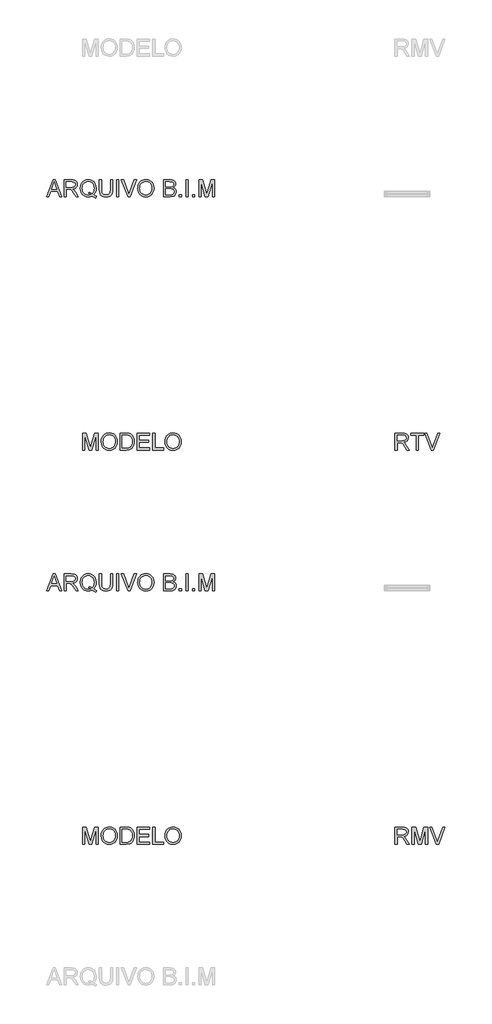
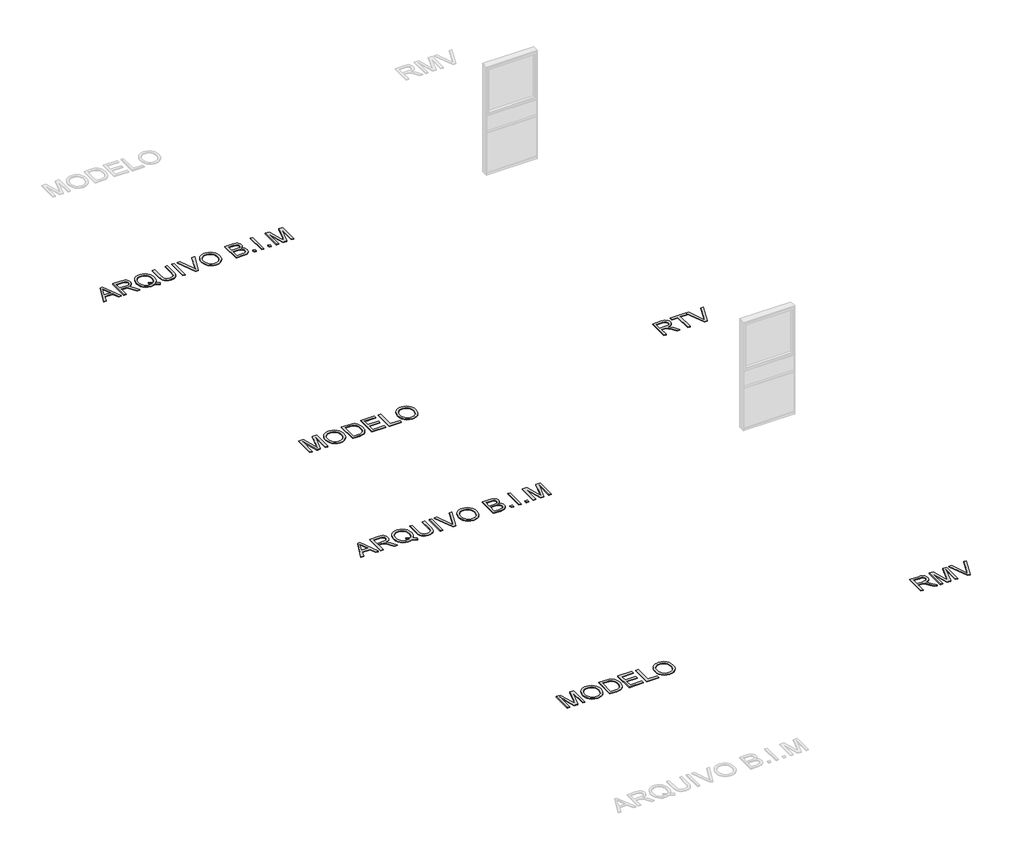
# One storey, part 6 of 15: 6 proxies.
"""IFC4 building model written with IfcOpenShell, lengths in millimetres."""

from ifc_helpers import new_model, si_unit, origin, origin_with_axes, place, context, project, spatial, polyline, outline, extrude, element, save

model = new_model("IFC4")

# Units and contexts
model_context = context("Model", 3, world=origin())
ifc_project = project(units=[si_unit("LENGTHUNIT", "METRE", prefix="MILLI")], contexts=[model_context])

# Site, building, storey
site = spatial("IfcSite", under=ifc_project)
building = spatial("IfcBuilding", under=site)
storey = spatial("IfcBuildingStorey", under=building, Name="Marelli - Linha REASONS - Planta Baixa", Elevation=0.0)

# Proxies
placement = place(None, origin())
element("IfcBuildingElementProxy", 1, Name="300mm Arial", ObjectType="300mm Arial", at=placement, inside=storey, context=model_context, shape_type="SweptSolid", body=[
    extrude(outline(polyline([(9390.580402, -105280.5663201), (9510.8778144, -104979.1973896), (9542.9571244, -104979.1973896), (9663.2545368, -105280.5663201), (9623.449705, -105280.5663201), (9588.9423738, -105186.3885293), (9464.8189886, -105186.3885293), (9430.3852339, -105280.5663201), (9390.580402, -105280.5663201)]), holes=[polyline([(9478.6513517, -105148.717413), (9575.1835872, -105148.717413), (9548.0338959, -105074.6259792), (9526.9174694, -105016.8685059), (9508.1554877, -105068.1512561), (9478.6513517, -105148.717413)])]), origin_with_axes(), (0.0, 0.0, 1.0), 10.0),
    extrude(outline(polyline([(9703.5008271, -105280.5663201), (9703.5008271, -104979.1973896), (9833.3631714, -104979.1973896), (9868.2659757, -104981.2299376), (9893.6590304, -104987.3275817), (9912.2186771, -104998.5847708), (9926.6212572, -105016.0959537), (9935.8642923, -105037.8101885), (9938.945304, -105061.6765329), (9933.8409413, -105091.3646099), (9918.5278533, -105115.9759154), (9906.9280741, -105126.0052983), (9892.5461874, -105134.0205273), (9855.4360911, -105144.0085235), (9876.8468232, -105160.1217548), (9907.3810288, -105198.8965171), (9957.6337094, -105280.5663201), (9913.855752, -105280.5663201), (9874.6395313, -105218.0999573), (9846.3126176, -105176.750021), (9826.4102017, -105157.2154871), (9808.4943485, -105150.0417882), (9786.642158, -105148.717413), (9741.1719434, -105148.717413), (9741.1719434, -105280.5663201), (9703.5008271, -105280.5663201)]), holes=[polyline([(9741.1719434, -105111.0462967), (9825.4904967, -105111.0462967), (9849.706329, -105109.7127245), (9868.4959019, -105105.7120078), (9882.6409647, -105098.7774322), (9892.9232664, -105088.6422832), (9899.1864574, -105076.3826157), (9901.2741877, -105063.0744845), (9897.2918651, -105044.6987789), (9885.3448973, -105029.8915286), (9864.7894908, -105020.1242616), (9834.9818522, -105016.8685059), (9741.1719434, -105016.8685059), (9741.1719434, -105111.0462967)])]), origin_with_axes(), (0.0, 0.0, 1.0), 10.0),
    extrude(outline(polyline([(10231.2643374, -105244.4403081), (10255.5997314, -105263.036743), (10277.9853508, -105275.8574305), (10267.8318077, -105303.4485802), (10236.7641732, -105289.0460001), (10205.8069033, -105268.205485), (10170.9500843, -105281.0077785), (10132.5983863, -105285.2752096), (10094.0627473, -105280.3547879), (10059.2427164, -105265.5935229), (10030.0788713, -105241.9203165), (10008.5117893, -105210.2640708), (9995.185264, -105172.3630282), (9990.7430889, -105129.9554312), (9995.176067, -105087.511046), (10008.4750011, -105049.0581805), (10029.9593096, -105016.9512794), (10058.9484108, -104993.5447874), (10093.639683, -104979.2525719), (10132.2305043, -104974.4885001), (10171.1248282, -104979.3629365), (10205.9908443, -104993.9862458), (10234.9339603, -105017.3835407), (10256.0595839, -105048.5799339), (10268.9722419, -105085.9199564), (10273.2764612, -105127.7481393), (10270.6644991, -105162.5313819), (10262.8286126, -105193.5990164), (10249.7136194, -105220.9142546), (10231.2643374, -105244.4403081)]), holes=[polyline([(10142.9726585, -105194.3347804), (10174.6472983, -105206.3093393), (10200.215097, -105222.9559996), (10215.6983305, -105205.4816049), (10226.7577829, -105184.1076609), (10233.3934544, -105158.8341679), (10235.6053449, -105129.6611256), (10232.478348, -105096.5057608), (10223.0973571, -105067.8201623), (10207.6922985, -105044.3308969), (10186.4930986, -105026.7645316), (10160.934497, -105015.8108452), (10132.4512335, -105012.1596164), (10110.966925, -105014.0059242), (10091.3956028, -105019.5448474), (10073.7372671, -105028.7763863), (10057.9919177, -105041.7005406), (10045.0516685, -105058.2897193), (10035.8086334, -105078.5163313), (10030.2628123, -105102.3803764), (10028.4142052, -105129.8818548), (10030.2421189, -105156.6659634), (10035.7258599, -105180.1437324), (10044.8654282, -105200.3151621), (10057.6608239, -105217.1802523), (10073.2981079, -105230.4906827), (10090.9633415, -105239.9981331), (10110.6565245, -105245.7026032), (10132.3776571, -105247.6040933), (10153.2917485, -105245.6727128), (10172.918253, -105239.8785714), (10153.6228423, -105229.853787), (10133.2605739, -105223.1767288), (10142.9726585, -105194.3347804)])]), origin_with_axes(), (0.0, 0.0, 1.0), 10.0),
    extrude(outline(polyline([(10527.5564963, -104979.1973896), (10565.2276126, -104979.1973896), (10565.2276126, -105153.0584205), (10562.6708327, -105193.7737604), (10555.0004931, -105225.1265034), (10540.6714894, -105249.3147446), (10518.1387172, -105268.5365788), (10487.3469942, -105281.0905519), (10448.2411381, -105285.2752096), (10409.9906077, -105281.6331779), (10379.4104168, -105270.7070826), (10356.4913685, -105252.8740029), (10341.2242657, -105228.5110178), (10332.6434182, -105195.8338995), (10329.7831357, -105153.0584205), (10329.7831357, -104979.1973896), (10367.454252, -104979.1973896), (10367.454252, -105151.7340454), (10369.3120561, -105185.588386), (10374.8854683, -105209.1604248), (10384.9838291, -105225.4851883), (10400.4164788, -105237.597703), (10420.5396239, -105245.1024957), (10444.709471, -105247.6040933), (10483.0243808, -105242.6560805), (10497.3671801, -105236.4710644), (10508.500209, -105227.812042), (10516.8373347, -105215.6351479), (10522.7924245, -105198.8965171), (10527.5564963, -105151.7340454), (10527.5564963, -104979.1973896)])), origin_with_axes(), (0.0, 0.0, 1.0), 10.0),
    extrude(outline(polyline([(10635.8609557, -105280.5663201), (10635.8609557, -104979.1973896), (10673.532072, -104979.1973896), (10673.532072, -105280.5663201), (10635.8609557, -105280.5663201)])), origin_with_axes(), (0.0, 0.0, 1.0), 10.0),
    extrude(outline(polyline([(10837.9017474, -105280.5663201), (10717.972217, -104979.1973896), (10758.2920837, -104979.1973896), (10838.563935, -105196.3213432), (10854.8243192, -105245.2496485), (10870.8639742, -105196.3213432), (10951.3565547, -104979.1973896), (10991.6764214, -104979.1973896), (10876.8236625, -105280.5663201), (10837.9017474, -105280.5663201)])), origin_with_axes(), (0.0, 0.0, 1.0), 10.0),
    extrude(outline(polyline([(11012.5721187, -105133.8549804), (11015.0829134, -105098.5061192), (11022.6152972, -105067.213157), (11035.1692703, -105039.9760937), (11052.7448326, -105016.7949295), (11074.288922, -104998.2858666), (11098.7484761, -104985.0651074), (11126.1234951, -104977.1326519), (11156.4139789, -104974.4885001), (11195.9428992, -104979.454907), (11231.3883295, -104994.3541278), (11260.8188891, -105018.1376988), (11282.3031976, -105049.7571563), (11295.4365848, -105087.68579), (11299.8143806, -105130.3968896), (11295.2066586, -105173.6782064), (11281.3834926, -105212.140269), (11259.1082378, -105243.8149088), (11229.1442493, -105266.733957), (11194.0023217, -105280.6398965), (11156.1932497, -105285.2752096), (11116.057324, -105280.1524528), (11080.4095587, -105264.7841825), (11051.0525754, -105240.5591531), (11029.7889961, -105208.8661192), (11016.8763381, -105172.3998164), (11012.5721187, -105133.8549804)]), holes=[polyline([(11050.2432351, -105134.2228624), (11052.126331, -105159.1974513), (11057.7756189, -105181.3669401), (11067.1910987, -105200.7313286), (11080.3727705, -105217.2906169), (11096.3963306, -105230.5527628), (11114.3374757, -105240.0257242), (11134.1962056, -105245.709501), (11155.9725205, -105247.6040933), (11178.1213158, -105245.6911069), (11198.2145706, -105239.9521478), (11216.2522846, -105230.3872159), (11232.2344581, -105216.9963113), (11245.3195608, -105200.0875351), (11254.6660627, -105179.9689885), (11260.2739639, -105156.6406715), (11262.1432643, -105130.102584), (11258.9426909, -105096.7540812), (11249.3409708, -105067.9305269), (11233.5864244, -105044.358488), (11211.9273719, -105026.7645316), (11185.7985532, -105015.8108452), (11156.6347081, -105012.1596164), (11135.6148506, -105013.9185522), (11116.1125063, -105019.1953595), (11098.1276752, -105027.9900385), (11081.6603574, -105040.302589), (11067.9153664, -105056.7262208), (11058.0975156, -105077.8541437), (11052.2068052, -105103.6863575), (11050.2432351, -105134.2228624)])]), origin_with_axes(), (0.0, 0.0, 1.0), 10.0),
    extrude(outline(polyline([(11469.334404, -105280.5663201), (11469.334404, -104979.1973896), (11584.3343156, -104979.1973896), (11615.9629702, -104981.4138786), (11640.6570491, -104988.0633457), (11659.5845778, -104999.3113377), (11673.9135815, -105015.3234015), (11682.9358874, -105034.1589597), (11685.9433227, -105053.8774346), (11683.414134, -105072.0232141), (11675.8265679, -105089.0837416), (11663.125442, -105104.0105535), (11645.2555741, -105115.7551862), (11666.6019268, -105126.9020107), (11682.3748674, -105143.8613707), (11692.1145432, -105165.5112261), (11695.3611018, -105190.7295368), (11693.1446128, -105211.7447958), (11686.4951457, -105231.2333445), (11676.5715289, -105247.8064284), (11664.5325906, -105260.0752929), (11649.7897196, -105268.9596431), (11631.7543048, -105275.3791839), (11583.4513989, -105280.5663201), (11469.334404, -105280.5663201)]), holes=[polyline([(11507.0055203, -105101.6285176), (11575.7994534, -105101.6285176), (11615.9721672, -105098.3911561), (11630.0344565, -105092.8085468), (11640.1420143, -105084.4484284), (11646.2396584, -105073.4395597), (11648.2722064, -105059.9106994), (11646.3776141, -105046.7773121), (11640.6938373, -105035.3361821), (11631.4783933, -105026.4058467), (11618.9887996, -105020.8048433), (11570.575529, -105016.8685059), (11507.0055203, -105016.8685059), (11507.0055203, -105101.6285176)]), polyline([(11507.0055203, -105242.8952038), (11584.2607393, -105242.8952038), (11612.2197709, -105241.4236758), (11635.8745832, -105233.2199073), (11651.5463562, -105216.4812765), (11656.1540782, -105204.6538704), (11657.6899855, -105191.0974188), (11655.8873637, -105175.3520694), (11650.4794984, -105161.814012), (11641.0341282, -105151.2282076), (11627.1189917, -105144.3396173), (11607.4097138, -105140.5596298), (11580.5819193, -105139.2996339), (11507.0055203, -105139.2996339), (11507.0055203, -105242.8952038)])]), origin_with_axes(), (0.0, 0.0, 1.0), 10.0),
    extrude(outline(polyline([(11751.8677763, -105280.5663201), (11751.8677763, -105242.8952038), (11789.5388926, -105242.8952038), (11789.5388926, -105280.5663201), (11751.8677763, -105280.5663201)])), origin_with_axes(), (0.0, 0.0, 1.0), 10.0),
    extrude(outline(polyline([(11869.5900147, -105280.5663201), (11869.5900147, -104979.1973896), (11907.261131, -104979.1973896), (11907.261131, -105280.5663201), (11869.5900147, -105280.5663201)])), origin_with_axes(), (0.0, 0.0, 1.0), 10.0),
    extrude(outline(polyline([(11987.3122532, -105280.5663201), (11987.3122532, -105242.8952038), (12024.9833695, -105242.8952038), (12024.9833695, -105280.5663201), (11987.3122532, -105280.5663201)])), origin_with_axes(), (0.0, 0.0, 1.0), 10.0),
    extrude(outline(polyline([(12100.3256021, -105280.5663201), (12100.3256021, -104979.1973896), (12165.1464096, -104979.1973896), (12226.803432, -105191.6124536), (12239.2378435, -105235.9790223), (12252.7023245, -105187.9336337), (12313.3292773, -104979.1973896), (12378.1500848, -104979.1973896), (12378.1500848, -105280.5663201), (12340.4789685, -105280.5663201), (12340.4789685, -105016.8685059), (12264.7688539, -105280.5663201), (12213.706833, -105280.5663201), (12137.9967184, -105016.8685059), (12137.9967184, -105280.5663201), (12100.3256021, -105280.5663201)])), origin_with_axes(), (0.0, 0.0, 1.0), 10.0),
])
element("IfcBuildingElementProxy", 2, Name="300mm Arial", ObjectType="300mm Arial", at=placement, inside=storey, context=model_context, shape_type="SweptSolid", body=[
    extrude(outline(polyline([(9390.580402, -112280.5663201), (9510.8778144, -111979.1973896), (9542.9571244, -111979.1973896), (9663.2545368, -112280.5663201), (9623.449705, -112280.5663201), (9588.9423738, -112186.3885293), (9464.8189886, -112186.3885293), (9430.3852339, -112280.5663201), (9390.580402, -112280.5663201)]), holes=[polyline([(9478.6513517, -112148.717413), (9575.1835872, -112148.717413), (9548.0338959, -112074.6259792), (9526.9174694, -112016.8685059), (9508.1554877, -112068.1512561), (9478.6513517, -112148.717413)])]), origin_with_axes(), (0.0, 0.0, 1.0), 10.0),
    extrude(outline(polyline([(9703.5008271, -112280.5663201), (9703.5008271, -111979.1973896), (9833.3631714, -111979.1973896), (9868.2659757, -111981.2299376), (9893.6590304, -111987.3275817), (9912.2186771, -111998.5847708), (9926.6212572, -112016.0959537), (9935.8642923, -112037.8101885), (9938.945304, -112061.6765329), (9933.8409413, -112091.3646099), (9918.5278533, -112115.9759154), (9906.9280741, -112126.0052983), (9892.5461874, -112134.0205273), (9855.4360911, -112144.0085235), (9876.8468232, -112160.1217548), (9907.3810288, -112198.8965171), (9957.6337094, -112280.5663201), (9913.855752, -112280.5663201), (9874.6395313, -112218.0999573), (9846.3126176, -112176.750021), (9826.4102017, -112157.2154871), (9808.4943485, -112150.0417882), (9786.642158, -112148.717413), (9741.1719434, -112148.717413), (9741.1719434, -112280.5663201), (9703.5008271, -112280.5663201)]), holes=[polyline([(9741.1719434, -112111.0462967), (9825.4904967, -112111.0462967), (9849.706329, -112109.7127245), (9868.4959019, -112105.7120078), (9882.6409647, -112098.7774322), (9892.9232664, -112088.6422832), (9899.1864574, -112076.3826157), (9901.2741877, -112063.0744845), (9897.2918651, -112044.6987789), (9885.3448973, -112029.8915286), (9864.7894908, -112020.1242616), (9834.9818522, -112016.8685059), (9741.1719434, -112016.8685059), (9741.1719434, -112111.0462967)])]), origin_with_axes(), (0.0, 0.0, 1.0), 10.0),
    extrude(outline(polyline([(10231.2643374, -112244.4403081), (10255.5997314, -112263.036743), (10277.9853508, -112275.8574305), (10267.8318077, -112303.4485802), (10236.7641732, -112289.0460001), (10205.8069033, -112268.205485), (10170.9500843, -112281.0077785), (10132.5983863, -112285.2752096), (10094.0627473, -112280.3547879), (10059.2427164, -112265.5935229), (10030.0788713, -112241.9203165), (10008.5117893, -112210.2640708), (9995.185264, -112172.3630282), (9990.7430889, -112129.9554312), (9995.176067, -112087.511046), (10008.4750011, -112049.0581805), (10029.9593096, -112016.9512794), (10058.9484108, -111993.5447874), (10093.639683, -111979.2525719), (10132.2305043, -111974.4885001), (10171.1248282, -111979.3629365), (10205.9908443, -111993.9862458), (10234.9339603, -112017.3835407), (10256.0595839, -112048.5799339), (10268.9722419, -112085.9199564), (10273.2764612, -112127.7481393), (10270.6644991, -112162.5313819), (10262.8286126, -112193.5990164), (10249.7136194, -112220.9142546), (10231.2643374, -112244.4403081)]), holes=[polyline([(10142.9726585, -112194.3347804), (10174.6472983, -112206.3093393), (10200.215097, -112222.9559996), (10215.6983305, -112205.4816049), (10226.7577829, -112184.1076609), (10233.3934544, -112158.8341679), (10235.6053449, -112129.6611256), (10232.478348, -112096.5057608), (10223.0973571, -112067.8201623), (10207.6922985, -112044.3308969), (10186.4930986, -112026.7645316), (10160.934497, -112015.8108452), (10132.4512335, -112012.1596164), (10110.966925, -112014.0059242), (10091.3956028, -112019.5448474), (10073.7372671, -112028.7763863), (10057.9919177, -112041.7005406), (10045.0516685, -112058.2897193), (10035.8086334, -112078.5163313), (10030.2628123, -112102.3803764), (10028.4142052, -112129.8818548), (10030.2421189, -112156.6659634), (10035.7258599, -112180.1437324), (10044.8654282, -112200.3151621), (10057.6608239, -112217.1802523), (10073.2981079, -112230.4906827), (10090.9633415, -112239.9981331), (10110.6565245, -112245.7026032), (10132.3776571, -112247.6040933), (10153.2917485, -112245.6727128), (10172.918253, -112239.8785714), (10153.6228423, -112229.853787), (10133.2605739, -112223.1767288), (10142.9726585, -112194.3347804)])]), origin_with_axes(), (0.0, 0.0, 1.0), 10.0),
    extrude(outline(polyline([(10527.5564963, -111979.1973896), (10565.2276126, -111979.1973896), (10565.2276126, -112153.0584205), (10562.6708327, -112193.7737604), (10555.0004931, -112225.1265034), (10540.6714894, -112249.3147446), (10518.1387172, -112268.5365788), (10487.3469942, -112281.0905519), (10448.2411381, -112285.2752096), (10409.9906077, -112281.6331779), (10379.4104168, -112270.7070826), (10356.4913685, -112252.8740029), (10341.2242657, -112228.5110178), (10332.6434182, -112195.8338995), (10329.7831357, -112153.0584205), (10329.7831357, -111979.1973896), (10367.454252, -111979.1973896), (10367.454252, -112151.7340454), (10369.3120561, -112185.588386), (10374.8854683, -112209.1604248), (10384.9838291, -112225.4851883), (10400.4164788, -112237.597703), (10420.5396239, -112245.1024957), (10444.709471, -112247.6040933), (10483.0243808, -112242.6560805), (10497.3671801, -112236.4710644), (10508.500209, -112227.812042), (10516.8373347, -112215.6351479), (10522.7924245, -112198.8965171), (10527.5564963, -112151.7340454), (10527.5564963, -111979.1973896)])), origin_with_axes(), (0.0, 0.0, 1.0), 10.0),
    extrude(outline(polyline([(10635.8609557, -112280.5663201), (10635.8609557, -111979.1973896), (10673.532072, -111979.1973896), (10673.532072, -112280.5663201), (10635.8609557, -112280.5663201)])), origin_with_axes(), (0.0, 0.0, 1.0), 10.0),
    extrude(outline(polyline([(10837.9017474, -112280.5663201), (10717.972217, -111979.1973896), (10758.2920837, -111979.1973896), (10838.563935, -112196.3213432), (10854.8243192, -112245.2496485), (10870.8639742, -112196.3213432), (10951.3565547, -111979.1973896), (10991.6764214, -111979.1973896), (10876.8236625, -112280.5663201), (10837.9017474, -112280.5663201)])), origin_with_axes(), (0.0, 0.0, 1.0), 10.0),
    extrude(outline(polyline([(11012.5721187, -112133.8549804), (11015.0829134, -112098.5061192), (11022.6152972, -112067.213157), (11035.1692703, -112039.9760937), (11052.7448326, -112016.7949295), (11074.288922, -111998.2858666), (11098.7484761, -111985.0651074), (11126.1234951, -111977.1326519), (11156.4139789, -111974.4885001), (11195.9428992, -111979.454907), (11231.3883295, -111994.3541278), (11260.8188891, -112018.1376988), (11282.3031976, -112049.7571563), (11295.4365848, -112087.68579), (11299.8143806, -112130.3968896), (11295.2066586, -112173.6782064), (11281.3834926, -112212.140269), (11259.1082378, -112243.8149088), (11229.1442493, -112266.733957), (11194.0023217, -112280.6398965), (11156.1932497, -112285.2752096), (11116.057324, -112280.1524528), (11080.4095587, -112264.7841825), (11051.0525754, -112240.5591531), (11029.7889961, -112208.8661192), (11016.8763381, -112172.3998164), (11012.5721187, -112133.8549804)]), holes=[polyline([(11050.2432351, -112134.2228624), (11052.126331, -112159.1974513), (11057.7756189, -112181.3669401), (11067.1910987, -112200.7313286), (11080.3727705, -112217.2906169), (11096.3963306, -112230.5527628), (11114.3374757, -112240.0257242), (11134.1962056, -112245.709501), (11155.9725205, -112247.6040933), (11178.1213158, -112245.6911069), (11198.2145706, -112239.9521478), (11216.2522846, -112230.3872159), (11232.2344581, -112216.9963113), (11245.3195608, -112200.0875351), (11254.6660627, -112179.9689885), (11260.2739639, -112156.6406715), (11262.1432643, -112130.102584), (11258.9426909, -112096.7540812), (11249.3409708, -112067.9305269), (11233.5864244, -112044.358488), (11211.9273719, -112026.7645316), (11185.7985532, -112015.8108452), (11156.6347081, -112012.1596164), (11135.6148506, -112013.9185522), (11116.1125063, -112019.1953595), (11098.1276752, -112027.9900385), (11081.6603574, -112040.302589), (11067.9153664, -112056.7262208), (11058.0975156, -112077.8541437), (11052.2068052, -112103.6863575), (11050.2432351, -112134.2228624)])]), origin_with_axes(), (0.0, 0.0, 1.0), 10.0),
    extrude(outline(polyline([(11469.334404, -112280.5663201), (11469.334404, -111979.1973896), (11584.3343156, -111979.1973896), (11615.9629702, -111981.4138786), (11640.6570491, -111988.0633457), (11659.5845778, -111999.3113377), (11673.9135815, -112015.3234015), (11682.9358874, -112034.1589597), (11685.9433227, -112053.8774346), (11683.414134, -112072.0232141), (11675.8265679, -112089.0837416), (11663.125442, -112104.0105535), (11645.2555741, -112115.7551862), (11666.6019268, -112126.9020107), (11682.3748674, -112143.8613707), (11692.1145432, -112165.5112261), (11695.3611018, -112190.7295368), (11693.1446128, -112211.7447958), (11686.4951457, -112231.2333445), (11676.5715289, -112247.8064284), (11664.5325906, -112260.0752929), (11649.7897196, -112268.9596431), (11631.7543048, -112275.3791839), (11583.4513989, -112280.5663201), (11469.334404, -112280.5663201)]), holes=[polyline([(11507.0055203, -112101.6285176), (11575.7994534, -112101.6285176), (11615.9721672, -112098.3911561), (11630.0344565, -112092.8085468), (11640.1420143, -112084.4484284), (11646.2396584, -112073.4395597), (11648.2722064, -112059.9106994), (11646.3776141, -112046.7773121), (11640.6938373, -112035.3361821), (11631.4783933, -112026.4058467), (11618.9887996, -112020.8048433), (11570.575529, -112016.8685059), (11507.0055203, -112016.8685059), (11507.0055203, -112101.6285176)]), polyline([(11507.0055203, -112242.8952038), (11584.2607393, -112242.8952038), (11612.2197709, -112241.4236758), (11635.8745832, -112233.2199073), (11651.5463562, -112216.4812765), (11656.1540782, -112204.6538704), (11657.6899855, -112191.0974188), (11655.8873637, -112175.3520694), (11650.4794984, -112161.814012), (11641.0341282, -112151.2282076), (11627.1189917, -112144.3396173), (11607.4097138, -112140.5596298), (11580.5819193, -112139.2996339), (11507.0055203, -112139.2996339), (11507.0055203, -112242.8952038)])]), origin_with_axes(), (0.0, 0.0, 1.0), 10.0),
    extrude(outline(polyline([(11751.8677763, -112280.5663201), (11751.8677763, -112242.8952038), (11789.5388926, -112242.8952038), (11789.5388926, -112280.5663201), (11751.8677763, -112280.5663201)])), origin_with_axes(), (0.0, 0.0, 1.0), 10.0),
    extrude(outline(polyline([(11869.5900147, -112280.5663201), (11869.5900147, -111979.1973896), (11907.261131, -111979.1973896), (11907.261131, -112280.5663201), (11869.5900147, -112280.5663201)])), origin_with_axes(), (0.0, 0.0, 1.0), 10.0),
    extrude(outline(polyline([(11987.3122532, -112280.5663201), (11987.3122532, -112242.8952038), (12024.9833695, -112242.8952038), (12024.9833695, -112280.5663201), (11987.3122532, -112280.5663201)])), origin_with_axes(), (0.0, 0.0, 1.0), 10.0),
    extrude(outline(polyline([(12100.3256021, -112280.5663201), (12100.3256021, -111979.1973896), (12165.1464096, -111979.1973896), (12226.803432, -112191.6124536), (12239.2378435, -112235.9790223), (12252.7023245, -112187.9336337), (12313.3292773, -111979.1973896), (12378.1500848, -111979.1973896), (12378.1500848, -112280.5663201), (12340.4789685, -112280.5663201), (12340.4789685, -112016.8685059), (12264.7688539, -112280.5663201), (12213.706833, -112280.5663201), (12137.9967184, -112016.8685059), (12137.9967184, -112280.5663201), (12100.3256021, -112280.5663201)])), origin_with_axes(), (0.0, 0.0, 1.0), 10.0),
])
element("IfcBuildingElementProxy", 3, Name="300mm Arial", ObjectType="300mm Arial", at=placement, inside=storey, context=model_context, shape_type="SweptSolid", body=[
    extrude(outline(polyline([(10033.1230948, -109780.5663201), (10033.1230948, -109479.1973896), (10097.9439023, -109479.1973896), (10159.6009247, -109691.6124536), (10172.0353362, -109735.9790223), (10185.4998172, -109687.9336337), (10246.12677, -109479.1973896), (10310.9475775, -109479.1973896), (10310.9475775, -109780.5663201), (10273.2764612, -109780.5663201), (10273.2764612, -109516.8685059), (10197.5663466, -109780.5663201), (10146.5043257, -109780.5663201), (10070.7942111, -109516.8685059), (10070.7942111, -109780.5663201), (10033.1230948, -109780.5663201)])), origin_with_axes(), (0.0, 0.0, 1.0), 10.0),
    extrude(outline(polyline([(10362.7453625, -109633.8549804), (10365.2561571, -109598.5061192), (10372.7885409, -109567.213157), (10385.342514, -109539.9760937), (10402.9180763, -109516.7949295), (10424.4621657, -109498.2858666), (10448.9217198, -109485.0651074), (10476.2967388, -109477.1326519), (10506.5872226, -109474.4885001), (10546.116143, -109479.454907), (10581.5615732, -109494.3541278), (10610.9921328, -109518.1376988), (10632.4764413, -109549.7571563), (10645.6098286, -109587.68579), (10649.9876243, -109630.3968896), (10645.3799023, -109673.6782064), (10631.5567363, -109712.140269), (10609.2814815, -109743.8149088), (10579.317493, -109766.733957), (10544.1755654, -109780.6398965), (10506.3664934, -109785.2752096), (10466.2305677, -109780.1524528), (10430.5828024, -109764.7841825), (10401.2258192, -109740.5591531), (10379.9622398, -109708.8661192), (10367.0495818, -109672.3998164), (10362.7453625, -109633.8549804)]), holes=[polyline([(10400.4164788, -109634.2228624), (10402.2995747, -109659.1974513), (10407.9488626, -109681.3669401), (10417.3643424, -109700.7313286), (10430.5460142, -109717.2906169), (10446.5695743, -109730.5527628), (10464.5107194, -109740.0257242), (10484.3694493, -109745.709501), (10506.1457642, -109747.6040933), (10528.2945596, -109745.6911069), (10548.3878143, -109739.9521478), (10566.4255284, -109730.3872159), (10582.4077018, -109716.9963113), (10595.4928045, -109700.0875351), (10604.8393064, -109679.9689885), (10610.4472076, -109656.6406715), (10612.316508, -109630.102584), (10609.1159346, -109596.7540812), (10599.5142146, -109567.9305269), (10583.7596681, -109544.358488), (10562.1006157, -109526.7645316), (10535.9717969, -109515.8108452), (10506.8079518, -109512.1596164), (10485.7880943, -109513.9185522), (10466.28575, -109519.1953595), (10448.300919, -109527.9900385), (10431.8336012, -109540.302589), (10418.0886101, -109556.7262208), (10408.2707594, -109577.8541437), (10402.3800489, -109603.6863575), (10400.4164788, -109634.2228624)])]), origin_with_axes(), (0.0, 0.0, 1.0), 10.0),
    extrude(outline(polyline([(10701.7854092, -109780.5663201), (10701.7854092, -109479.1973896), (10805.7488611, -109479.1973896), (10859.5332088, -109483.5383972), (10883.555903, -109491.9077126), (10903.826201, -109505.0962821), (10924.666716, -109528.0521186), (10939.5107545, -109556.5997614), (10948.3951047, -109590.1873876), (10951.3565547, -109628.2631741), (10949.3515979, -109660.6091985), (10943.3367273, -109689.0740679), (10934.1764656, -109713.3082943), (10922.7353355, -109732.9623899), (10909.5651601, -109748.477813), (10895.2177623, -109760.2960221), (10878.745846, -109769.0608107), (10859.202115, -109775.4159721), (10810.7520562, -109780.5663201), (10701.7854092, -109780.5663201)]), holes=[polyline([(10739.4565255, -109742.8952038), (10806.1167431, -109742.8952038), (10833.6894986, -109741.5340404), (10854.60359, -109737.4505502), (10870.3857276, -109730.8838566), (10882.5626217, -109722.0730828), (10895.6500236, -109705.7667134), (10905.48167, -109684.6594839), (10911.6344963, -109658.6594239), (10913.6854384, -109627.6745629), (10909.6663276, -109586.6189322), (10897.6089953, -109556.3054558), (10879.7943096, -109535.4833349), (10858.5031392, -109522.9017706), (10836.8348897, -109518.3768221), (10805.0866735, -109516.8685059), (10739.4565255, -109516.8685059), (10739.4565255, -109742.8952038)])]), origin_with_axes(), (0.0, 0.0, 1.0), 10.0),
    extrude(outline(polyline([(11003.1543397, -109780.5663201), (11003.1543397, -109479.1973896), (11219.7632584, -109479.1973896), (11219.7632584, -109516.8685059), (11040.825456, -109516.8685059), (11040.825456, -109606.3374072), (11210.3454794, -109606.3374072), (11210.3454794, -109644.0085235), (11040.825456, -109644.0085235), (11040.825456, -109742.8952038), (11224.472148, -109742.8952038), (11224.472148, -109780.5663201), (11003.1543397, -109780.5663201)])), origin_with_axes(), (0.0, 0.0, 1.0), 10.0),
    extrude(outline(polyline([(11280.9788224, -109780.5663201), (11280.9788224, -109479.1973896), (11318.6499387, -109479.1973896), (11318.6499387, -109742.8952038), (11469.334404, -109742.8952038), (11469.334404, -109780.5663201), (11280.9788224, -109780.5663201)])), origin_with_axes(), (0.0, 0.0, 1.0), 10.0),
    extrude(outline(polyline([(11497.5877412, -109633.8549804), (11500.0985358, -109598.5061192), (11507.6309197, -109567.213157), (11520.1848927, -109539.9760937), (11537.7604551, -109516.7949295), (11559.3045444, -109498.2858666), (11583.7640986, -109485.0651074), (11611.1391175, -109477.1326519), (11641.4296013, -109474.4885001), (11680.9585217, -109479.454907), (11716.4039519, -109494.3541278), (11745.8345115, -109518.1376988), (11767.3188201, -109549.7571563), (11780.4522073, -109587.68579), (11784.830003, -109630.3968896), (11780.222281, -109673.6782064), (11766.3991151, -109712.140269), (11744.1238603, -109743.8149088), (11714.1598717, -109766.733957), (11679.0179442, -109780.6398965), (11641.2088721, -109785.2752096), (11601.0729464, -109780.1524528), (11565.4251811, -109764.7841825), (11536.0681979, -109740.5591531), (11514.8046186, -109708.8661192), (11501.8919605, -109672.3998164), (11497.5877412, -109633.8549804)]), holes=[polyline([(11535.2588575, -109634.2228624), (11537.1419535, -109659.1974513), (11542.7912413, -109681.3669401), (11552.2067212, -109700.7313286), (11565.3883929, -109717.2906169), (11581.4119531, -109730.5527628), (11599.3530981, -109740.0257242), (11619.2118281, -109745.709501), (11640.9881429, -109747.6040933), (11663.1369383, -109745.6911069), (11683.230193, -109739.9521478), (11701.2679071, -109730.3872159), (11717.2500805, -109716.9963113), (11730.3351832, -109700.0875351), (11739.6816852, -109679.9689885), (11745.2895863, -109656.6406715), (11747.1588867, -109630.102584), (11743.9583134, -109596.7540812), (11734.3565933, -109567.9305269), (11718.6020468, -109544.358488), (11696.9429944, -109526.7645316), (11670.8141757, -109515.8108452), (11641.6503305, -109512.1596164), (11620.630473, -109513.9185522), (11601.1281287, -109519.1953595), (11583.1432977, -109527.9900385), (11566.6759799, -109540.302589), (11552.9309888, -109556.7262208), (11543.1131381, -109577.8541437), (11537.2224276, -109603.6863575), (11535.2588575, -109634.2228624)])]), origin_with_axes(), (0.0, 0.0, 1.0), 10.0),
])
element("IfcBuildingElementProxy", 4, Name="300mm Arial", ObjectType="300mm Arial", at=placement, inside=storey, context=model_context, shape_type="SweptSolid", body=[
    extrude(outline(polyline([(10033.1230948, -116780.5663201), (10033.1230948, -116479.1973896), (10097.9439023, -116479.1973896), (10159.6009247, -116691.6124536), (10172.0353362, -116735.9790223), (10185.4998172, -116687.9336337), (10246.12677, -116479.1973896), (10310.9475775, -116479.1973896), (10310.9475775, -116780.5663201), (10273.2764612, -116780.5663201), (10273.2764612, -116516.8685059), (10197.5663466, -116780.5663201), (10146.5043257, -116780.5663201), (10070.7942111, -116516.8685059), (10070.7942111, -116780.5663201), (10033.1230948, -116780.5663201)])), origin_with_axes(), (0.0, 0.0, 1.0), 10.0),
    extrude(outline(polyline([(10362.7453625, -116633.8549804), (10365.2561571, -116598.5061192), (10372.7885409, -116567.213157), (10385.342514, -116539.9760937), (10402.9180763, -116516.7949295), (10424.4621657, -116498.2858666), (10448.9217198, -116485.0651074), (10476.2967388, -116477.1326519), (10506.5872226, -116474.4885001), (10546.116143, -116479.454907), (10581.5615732, -116494.3541278), (10610.9921328, -116518.1376988), (10632.4764413, -116549.7571563), (10645.6098286, -116587.68579), (10649.9876243, -116630.3968896), (10645.3799023, -116673.6782064), (10631.5567363, -116712.140269), (10609.2814815, -116743.8149088), (10579.317493, -116766.733957), (10544.1755654, -116780.6398965), (10506.3664934, -116785.2752096), (10466.2305677, -116780.1524528), (10430.5828024, -116764.7841825), (10401.2258192, -116740.5591531), (10379.9622398, -116708.8661192), (10367.0495818, -116672.3998164), (10362.7453625, -116633.8549804)]), holes=[polyline([(10400.4164788, -116634.2228624), (10402.2995747, -116659.1974513), (10407.9488626, -116681.3669401), (10417.3643424, -116700.7313286), (10430.5460142, -116717.2906169), (10446.5695743, -116730.5527628), (10464.5107194, -116740.0257242), (10484.3694493, -116745.709501), (10506.1457642, -116747.6040933), (10528.2945596, -116745.6911069), (10548.3878143, -116739.9521478), (10566.4255284, -116730.3872159), (10582.4077018, -116716.9963113), (10595.4928045, -116700.0875351), (10604.8393064, -116679.9689885), (10610.4472076, -116656.6406715), (10612.316508, -116630.102584), (10609.1159346, -116596.7540812), (10599.5142146, -116567.9305269), (10583.7596681, -116544.358488), (10562.1006157, -116526.7645316), (10535.9717969, -116515.8108452), (10506.8079518, -116512.1596164), (10485.7880943, -116513.9185522), (10466.28575, -116519.1953595), (10448.300919, -116527.9900385), (10431.8336012, -116540.302589), (10418.0886101, -116556.7262208), (10408.2707594, -116577.8541437), (10402.3800489, -116603.6863575), (10400.4164788, -116634.2228624)])]), origin_with_axes(), (0.0, 0.0, 1.0), 10.0),
    extrude(outline(polyline([(10701.7854092, -116780.5663201), (10701.7854092, -116479.1973896), (10805.7488611, -116479.1973896), (10859.5332088, -116483.5383972), (10883.555903, -116491.9077126), (10903.826201, -116505.0962821), (10924.666716, -116528.0521186), (10939.5107545, -116556.5997614), (10948.3951047, -116590.1873876), (10951.3565547, -116628.2631741), (10949.3515979, -116660.6091985), (10943.3367273, -116689.0740679), (10934.1764656, -116713.3082943), (10922.7353355, -116732.9623899), (10909.5651601, -116748.477813), (10895.2177623, -116760.2960221), (10878.745846, -116769.0608107), (10859.202115, -116775.4159721), (10810.7520562, -116780.5663201), (10701.7854092, -116780.5663201)]), holes=[polyline([(10739.4565255, -116742.8952038), (10806.1167431, -116742.8952038), (10833.6894986, -116741.5340404), (10854.60359, -116737.4505502), (10870.3857276, -116730.8838566), (10882.5626217, -116722.0730828), (10895.6500236, -116705.7667134), (10905.48167, -116684.6594839), (10911.6344963, -116658.6594239), (10913.6854384, -116627.6745629), (10909.6663276, -116586.6189322), (10897.6089953, -116556.3054558), (10879.7943096, -116535.4833349), (10858.5031392, -116522.9017706), (10836.8348897, -116518.3768221), (10805.0866735, -116516.8685059), (10739.4565255, -116516.8685059), (10739.4565255, -116742.8952038)])]), origin_with_axes(), (0.0, 0.0, 1.0), 10.0),
    extrude(outline(polyline([(11003.1543397, -116780.5663201), (11003.1543397, -116479.1973896), (11219.7632584, -116479.1973896), (11219.7632584, -116516.8685059), (11040.825456, -116516.8685059), (11040.825456, -116606.3374072), (11210.3454794, -116606.3374072), (11210.3454794, -116644.0085235), (11040.825456, -116644.0085235), (11040.825456, -116742.8952038), (11224.472148, -116742.8952038), (11224.472148, -116780.5663201), (11003.1543397, -116780.5663201)])), origin_with_axes(), (0.0, 0.0, 1.0), 10.0),
    extrude(outline(polyline([(11280.9788224, -116780.5663201), (11280.9788224, -116479.1973896), (11318.6499387, -116479.1973896), (11318.6499387, -116742.8952038), (11469.334404, -116742.8952038), (11469.334404, -116780.5663201), (11280.9788224, -116780.5663201)])), origin_with_axes(), (0.0, 0.0, 1.0), 10.0),
    extrude(outline(polyline([(11497.5877412, -116633.8549804), (11500.0985358, -116598.5061192), (11507.6309197, -116567.213157), (11520.1848927, -116539.9760937), (11537.7604551, -116516.7949295), (11559.3045444, -116498.2858666), (11583.7640986, -116485.0651074), (11611.1391175, -116477.1326519), (11641.4296013, -116474.4885001), (11680.9585217, -116479.454907), (11716.4039519, -116494.3541278), (11745.8345115, -116518.1376988), (11767.3188201, -116549.7571563), (11780.4522073, -116587.68579), (11784.830003, -116630.3968896), (11780.222281, -116673.6782064), (11766.3991151, -116712.140269), (11744.1238603, -116743.8149088), (11714.1598717, -116766.733957), (11679.0179442, -116780.6398965), (11641.2088721, -116785.2752096), (11601.0729464, -116780.1524528), (11565.4251811, -116764.7841825), (11536.0681979, -116740.5591531), (11514.8046186, -116708.8661192), (11501.8919605, -116672.3998164), (11497.5877412, -116633.8549804)]), holes=[polyline([(11535.2588575, -116634.2228624), (11537.1419535, -116659.1974513), (11542.7912413, -116681.3669401), (11552.2067212, -116700.7313286), (11565.3883929, -116717.2906169), (11581.4119531, -116730.5527628), (11599.3530981, -116740.0257242), (11619.2118281, -116745.709501), (11640.9881429, -116747.6040933), (11663.1369383, -116745.6911069), (11683.230193, -116739.9521478), (11701.2679071, -116730.3872159), (11717.2500805, -116716.9963113), (11730.3351832, -116700.0875351), (11739.6816852, -116679.9689885), (11745.2895863, -116656.6406715), (11747.1588867, -116630.102584), (11743.9583134, -116596.7540812), (11734.3565933, -116567.9305269), (11718.6020468, -116544.358488), (11696.9429944, -116526.7645316), (11670.8141757, -116515.8108452), (11641.6503305, -116512.1596164), (11620.630473, -116513.9185522), (11601.1281287, -116519.1953595), (11583.1432977, -116527.9900385), (11566.6759799, -116540.302589), (11552.9309888, -116556.7262208), (11543.1131381, -116577.8541437), (11537.2224276, -116603.6863575), (11535.2588575, -116634.2228624)])]), origin_with_axes(), (0.0, 0.0, 1.0), 10.0),
])
element("IfcBuildingElementProxy", 5, Name="300mm Arial", ObjectType="300mm Arial", at=placement, inside=storey, context=model_context, shape_type="SweptSolid", body=[
    extrude(outline(polyline([(15588.7720603, -109780.5663201), (15588.7720603, -109479.1973896), (15718.6344046, -109479.1973896), (15753.5372089, -109481.2299376), (15778.9302636, -109487.3275817), (15797.4899103, -109498.5847708), (15811.8924904, -109516.0959537), (15821.1355255, -109537.8101885), (15824.2165372, -109561.6765329), (15819.1121745, -109591.3646099), (15803.7990865, -109615.9759154), (15792.1993073, -109626.0052983), (15777.8174206, -109634.0205273), (15740.7073243, -109644.0085235), (15762.1180564, -109660.1217548), (15792.652262, -109698.8965171), (15842.9049426, -109780.5663201), (15799.1269851, -109780.5663201), (15759.9107645, -109718.0999573), (15731.5838508, -109676.750021), (15711.6814349, -109657.2154871), (15693.7655817, -109650.0417882), (15671.9133912, -109648.717413), (15626.4431766, -109648.717413), (15626.4431766, -109780.5663201), (15588.7720603, -109780.5663201)]), holes=[polyline([(15626.4431766, -109611.0462967), (15710.7617299, -109611.0462967), (15734.9775622, -109609.7127245), (15753.7671351, -109605.7120078), (15767.9121979, -109598.7774322), (15778.1944996, -109588.6422832), (15784.4576906, -109576.3826157), (15786.5454209, -109563.0744845), (15782.5630983, -109544.6987789), (15770.6161305, -109529.8915286), (15750.060724, -109520.1242616), (15720.2530854, -109516.8685059), (15626.4431766, -109516.8685059), (15626.4431766, -109611.0462967)])]), origin_with_axes(), (0.0, 0.0, 1.0), 10.0),
    extrude(outline(polyline([(15965.4832234, -109780.5663201), (15965.4832234, -109516.8685059), (15866.5965431, -109516.8685059), (15866.5965431, -109479.1973896), (16102.04102, -109479.1973896), (16102.04102, -109516.8685059), (16003.1543397, -109516.8685059), (16003.1543397, -109780.5663201), (15965.4832234, -109780.5663201)])), origin_with_axes(), (0.0, 0.0, 1.0), 10.0),
    extrude(outline(polyline([(16233.4484687, -109780.5663201), (16113.5189382, -109479.1973896), (16153.8388049, -109479.1973896), (16234.1106562, -109696.3213432), (16250.3710404, -109745.2496485), (16266.4106954, -109696.3213432), (16346.903276, -109479.1973896), (16387.2231426, -109479.1973896), (16272.3703837, -109780.5663201), (16233.4484687, -109780.5663201)])), origin_with_axes(), (0.0, 0.0, 1.0), 10.0),
])
element("IfcBuildingElementProxy", 6, Name="300mm Arial", ObjectType="300mm Arial", at=placement, inside=storey, context=model_context, shape_type="SweptSolid", body=[
    extrude(outline(polyline([(15588.7720603, -116780.5663201), (15588.7720603, -116479.1973896), (15718.6344046, -116479.1973896), (15753.5372089, -116481.2299376), (15778.9302636, -116487.3275817), (15797.4899103, -116498.5847708), (15811.8924904, -116516.0959537), (15821.1355255, -116537.8101885), (15824.2165372, -116561.6765329), (15819.1121745, -116591.3646099), (15803.7990865, -116615.9759154), (15792.1993073, -116626.0052983), (15777.8174206, -116634.0205273), (15740.7073243, -116644.0085235), (15762.1180564, -116660.1217548), (15792.652262, -116698.8965171), (15842.9049426, -116780.5663201), (15799.1269851, -116780.5663201), (15759.9107645, -116718.0999573), (15731.5838508, -116676.750021), (15711.6814349, -116657.2154871), (15693.7655817, -116650.0417882), (15671.9133912, -116648.717413), (15626.4431766, -116648.717413), (15626.4431766, -116780.5663201), (15588.7720603, -116780.5663201)]), holes=[polyline([(15626.4431766, -116611.0462967), (15710.7617299, -116611.0462967), (15734.9775622, -116609.7127245), (15753.7671351, -116605.7120078), (15767.9121979, -116598.7774322), (15778.1944996, -116588.6422832), (15784.4576906, -116576.3826157), (15786.5454209, -116563.0744845), (15782.5630983, -116544.6987789), (15770.6161305, -116529.8915286), (15750.060724, -116520.1242616), (15720.2530854, -116516.8685059), (15626.4431766, -116516.8685059), (15626.4431766, -116611.0462967)])]), origin_with_axes(), (0.0, 0.0, 1.0), 10.0),
    extrude(outline(polyline([(15890.1409908, -116780.5663201), (15890.1409908, -116479.1973896), (15954.9617983, -116479.1973896), (16016.6188207, -116691.6124536), (16029.0532321, -116735.9790223), (16042.5177132, -116687.9336337), (16103.144666, -116479.1973896), (16167.9654735, -116479.1973896), (16167.9654735, -116780.5663201), (16130.2943572, -116780.5663201), (16130.2943572, -116516.8685059), (16054.5842426, -116780.5663201), (16003.5222217, -116780.5663201), (15927.8121071, -116516.8685059), (15927.8121071, -116780.5663201), (15890.1409908, -116780.5663201)])), origin_with_axes(), (0.0, 0.0, 1.0), 10.0),
    extrude(outline(polyline([(16322.9173699, -116780.5663201), (16202.9878394, -116479.1973896), (16243.3077061, -116479.1973896), (16323.5795575, -116696.3213432), (16339.8399417, -116745.2496485), (16355.8795966, -116696.3213432), (16436.3721772, -116479.1973896), (16476.6920439, -116479.1973896), (16361.839285, -116780.5663201), (16322.9173699, -116780.5663201)])), origin_with_axes(), (0.0, 0.0, 1.0), 10.0),
])

save(model, "model.ifc")
